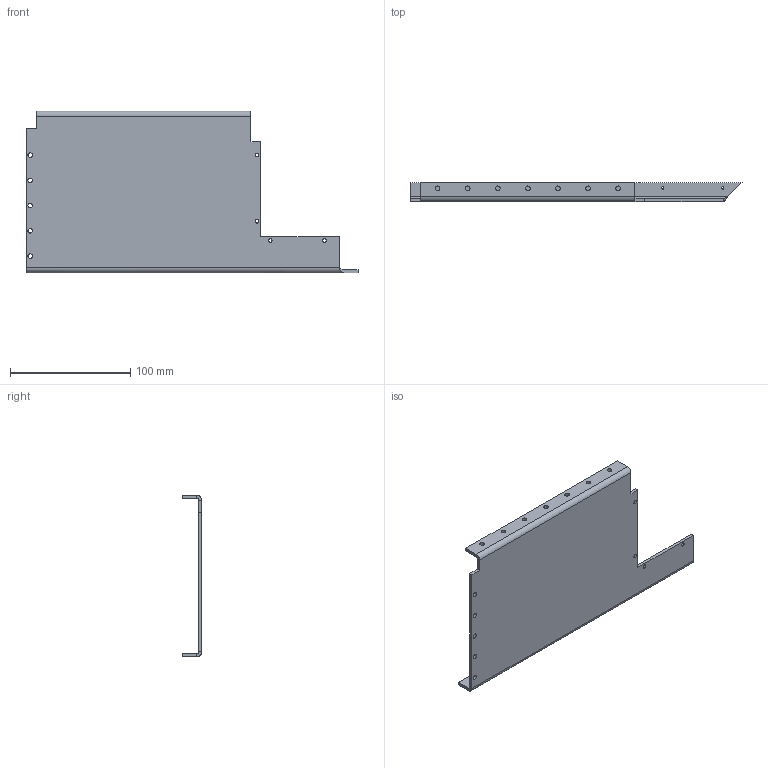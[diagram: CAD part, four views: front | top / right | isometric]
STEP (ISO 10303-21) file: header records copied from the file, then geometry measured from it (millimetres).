
FILE_DESCRIPTION(/* description */ (''),/* implementation_level */ '2;1');
FILE_NAME(/* name */ 'C:\Users\strothej\Documents\ActualDocuments\MicroscopeParts\TwoPhotonSystem\ScanningMechanics\v34\Drawings\Enclosure_PMT_Panel1.stp',/* time_stamp */ '2017-09-18T12:55:56-07:00',/* author */ ('strothej'),/* organization */ (''),/* preprocessor_version */ 'ST-DEVELOPER v16.1',/* originating_system */ 'Autodesk Inventor 2016',/* authorisation */ '');
FILE_SCHEMA (('AUTOMOTIVE_DESIGN { 1 0 10303 214 3 1 1 }'));
Length unit declared in the file: millimetre
Products named in the file (1): Enclosure_PMT_Panel1
Bounding box: 275.98 x 16 x 134.59 mm (x, y, z)
Volume: 85866.7 mm3; surface area: 69103 mm2
Topology: 1 solids, 1 shells, 51 faces, 138 edges, 89 vertices
Faces by surface type: cylinder 26, plane 24, bspline 1
Full cylindrical faces by diameter (mm): 2.013 x6, 3 x4, 3.8 x12
Entity records: 1584 total; most frequent: CARTESIAN_POINT 276, DIRECTION 262, ORIENTED_EDGE 220, EDGE_LOOP 117, EDGE_CURVE 110, AXIS2_PLACEMENT_3D 103, VERTEX_POINT 83, FACE_BOUND 66
